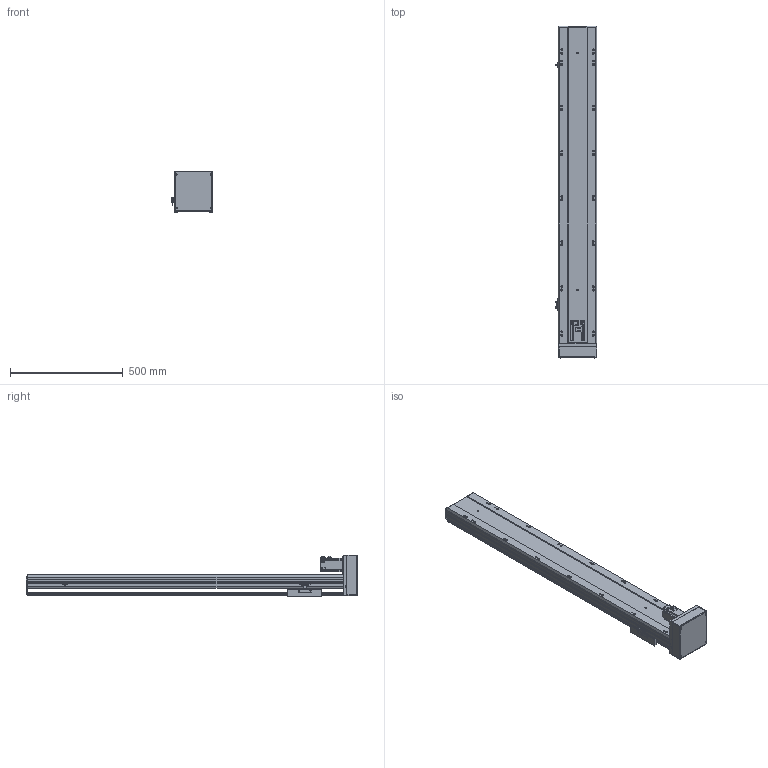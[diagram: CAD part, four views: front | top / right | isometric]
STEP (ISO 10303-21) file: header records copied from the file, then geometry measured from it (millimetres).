
FILE_DESCRIPTION (( 'STEP AP203' ), '1' );
FILE_NAME ('21.STEP', '2021-01-06T00:20:24', ( '' ), ( '' ), 'SwSTEP 2.0', 'SolidWorks 2016', '' );
FILE_SCHEMA (( 'CONFIG_CONTROL_DESIGN' ));
Length unit declared in the file: millimetre
Products named in the file (7): BTH17M-BM-HZ; BTH17M-BM-04; BTH17M-BM-T40; BTH17M-BM-01; BTH17M-BM-02_100; BTH17M-BM-菁釱; 21
Assembly tree (8 placements, depth 2):
  21
    BTH17M-BM-01
    BTH17M-BM-04  x3
    BTH17M-BM-HZ
    BTH17M-BM-菁釱
    BTH17M-BM-02_100
    BTH17M-BM-T40
Bounding box: 183.7 x 1471.2 x 185 mm (x, y, z)
Volume: 10147823.2 mm3; surface area: 1764526.6 mm2
Topology: 19 solids, 19 shells, 1421 faces, 3764 edges, 2401 vertices
Faces by surface type: plane 806, cylinder 503, cone 72, bspline 28, sphere 8, torus 4
Entity records: 38530 total; most frequent: CARTESIAN_POINT 8151, DIRECTION 6221, ORIENTED_EDGE 6108, EDGE_CURVE 3054, AXIS2_PLACEMENT_3D 2151, VERTEX_POINT 1977, LINE 1919, VECTOR 1919
